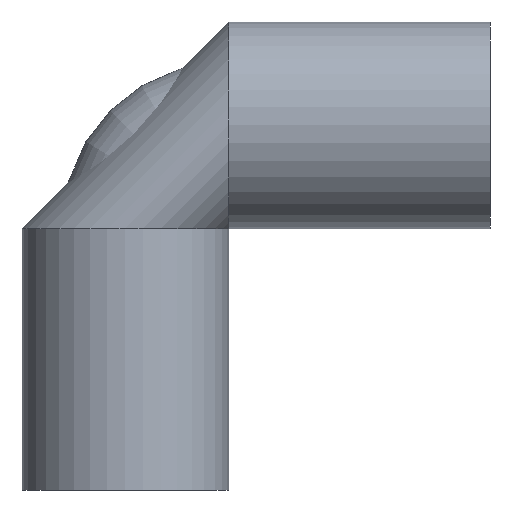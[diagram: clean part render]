
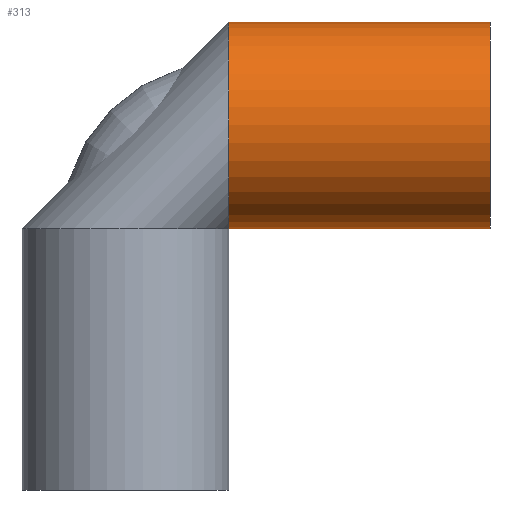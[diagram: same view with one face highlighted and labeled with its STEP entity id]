
A CAD part, front view. The second image highlights one B-rep face of the part: STEP entity #313.
In plain terms, the highlighted cylindrical face has radius 17 mm (diameter 34 mm), a full revolution.
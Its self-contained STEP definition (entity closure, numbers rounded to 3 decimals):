
#35=CIRCLE('',#355,17.);
#36=CIRCLE('',#356,17.);
#59=ORIENTED_EDGE('',*,*,#125,.T.);
#60=ORIENTED_EDGE('',*,*,#126,.T.);
#61=ORIENTED_EDGE('',*,*,#127,.F.);
#62=ORIENTED_EDGE('',*,*,#128,.F.);
#125=EDGE_CURVE('',#158,#158,#187,.T.);
#126=EDGE_CURVE('',#159,#159,#35,.F.);
#127=EDGE_CURVE('',#160,#160,#36,.F.);
#128=EDGE_CURVE('',#160,#160,#188,.T.);
#158=VERTEX_POINT('',#528);
#159=VERTEX_POINT('',#530);
#160=VERTEX_POINT('',#532);
#187=B_SPLINE_CURVE_WITH_KNOTS('',3,(#517,#518,#519,#520,#521,#522,#523,
#524,#525,#526,#527),.UNSPECIFIED.,.T.,.F.,(1,1,1,1,1,1,1,1,1,1,1,1,1,1,
1),(-0.005,-0.003,-0.002,0.,0.002,
0.003,0.005,0.006,0.008,
0.009,0.011,0.013,0.014,
0.016,0.017),.UNSPECIFIED.);
#188=B_SPLINE_CURVE_WITH_KNOTS('',3,(#533,#534,#535,#536,#537,#538,#539,
#540,#541,#542,#543,#544,#545,#546,#547,#548,#549,#550,#551),
 .UNSPECIFIED.,.T.,.F.,(1,1,1,1,1,1,1,1,1,1,1,1,1,1,1,1,1,1,1,1,1,1,1),
(-0.008,-0.005,-0.003,0.,
0.003,0.005,0.008,0.01,
0.013,0.015,0.018,0.021,
0.023,0.026,0.028,0.031,
0.033,0.036,0.038,0.041,
0.044,0.046,0.049),.UNSPECIFIED.);
#195=EDGE_LOOP('',(#59));
#196=EDGE_LOOP('',(#60));
#197=EDGE_LOOP('',(#61,#62));
#247=FACE_BOUND('',#195,.T.);
#248=FACE_BOUND('',#196,.T.);
#249=FACE_BOUND('',#197,.T.);
#299=CYLINDRICAL_SURFACE('',#354,17.);
#313=ADVANCED_FACE('',(#247,#248,#249),#299,.T.);
#354=AXIS2_PLACEMENT_3D('',#516,#409,#410);
#355=AXIS2_PLACEMENT_3D('',#529,#411,#412);
#356=AXIS2_PLACEMENT_3D('',#531,#413,#414);
#409=DIRECTION('',(-1.,0.,0.));
#410=DIRECTION('',(0.,0.,1.));
#411=DIRECTION('',(-1.,0.,0.));
#412=DIRECTION('',(0.,0.,-1.));
#413=DIRECTION('',(-1.,0.,0.));
#414=DIRECTION('',(0.,0.,-1.));
#516=CARTESIAN_POINT('',(60.,0.,60.));
#517=CARTESIAN_POINT('',(38.431,16.941,58.434));
#518=CARTESIAN_POINT('',(40.,16.852,57.783));
#519=CARTESIAN_POINT('',(41.567,16.941,58.434));
#520=CARTESIAN_POINT('',(42.216,17.029,59.998));
#521=CARTESIAN_POINT('',(41.568,16.941,61.567));
#522=CARTESIAN_POINT('',(40.,16.852,62.216));
#523=CARTESIAN_POINT('',(38.435,16.941,61.569));
#524=CARTESIAN_POINT('',(37.784,17.029,60.002));
#525=CARTESIAN_POINT('',(38.431,16.941,58.434));
#526=CARTESIAN_POINT('',(40.,16.852,57.783));
#527=CARTESIAN_POINT('',(41.567,16.941,58.434));
#528=CARTESIAN_POINT('',(40.,16.882,58.));
#529=CARTESIAN_POINT('',(17.,0.,60.));
#530=CARTESIAN_POINT('',(17.,0.,43.));
#531=CARTESIAN_POINT('',(60.,0.,60.));
#532=CARTESIAN_POINT('',(60.,17.,60.));
#533=CARTESIAN_POINT('',(59.654,16.863,62.569));
#534=CARTESIAN_POINT('',(60.174,17.069,60.002));
#535=CARTESIAN_POINT('',(59.652,16.862,57.422));
#536=CARTESIAN_POINT('',(58.209,16.369,55.285));
#537=CARTESIAN_POINT('',(56.075,15.859,53.849));
#538=CARTESIAN_POINT('',(53.507,15.633,53.326));
#539=CARTESIAN_POINT('',(50.927,15.858,53.846));
#540=CARTESIAN_POINT('',(48.786,16.37,55.289));
#541=CARTESIAN_POINT('',(47.348,16.863,57.427));
#542=CARTESIAN_POINT('',(46.827,17.069,59.997));
#543=CARTESIAN_POINT('',(47.346,16.863,62.573));
#544=CARTESIAN_POINT('',(48.791,16.369,64.717));
#545=CARTESIAN_POINT('',(50.93,15.858,66.154));
#546=CARTESIAN_POINT('',(53.502,15.633,66.674));
#547=CARTESIAN_POINT('',(56.076,15.859,66.152));
#548=CARTESIAN_POINT('',(58.214,16.37,64.712));
#549=CARTESIAN_POINT('',(59.654,16.863,62.569));
#550=CARTESIAN_POINT('',(60.174,17.069,60.002));
#551=CARTESIAN_POINT('',(59.652,16.862,57.422));
